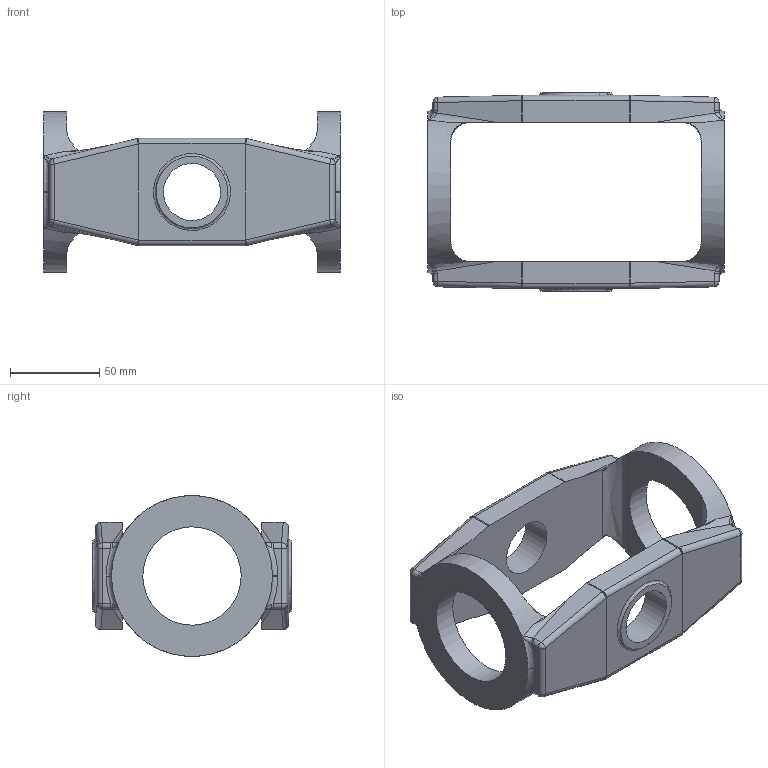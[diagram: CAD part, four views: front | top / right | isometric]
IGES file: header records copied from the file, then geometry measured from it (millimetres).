
Start section: START RECORD GO HERE.
Global section: file name: Croisillon.igs; native system: IBM CATIA IGES - CATIA Version 5 Release 18 ; preprocessor: CATIA Version 5 Release 18 ; author: Propriétaire; organization: FUJITSU-79916BB; date: 20090111.190931; units: millimetre
Bounding box: 166 x 111 x 89.73 mm (x, y, z)
Surface area: 67090.5 mm2 (no closed solid volume)
Topology: 0 solids, 0 shells, 150 faces, 709 edges, 696 vertices
Faces by surface type: revolution 96, plane 30, bspline 24
